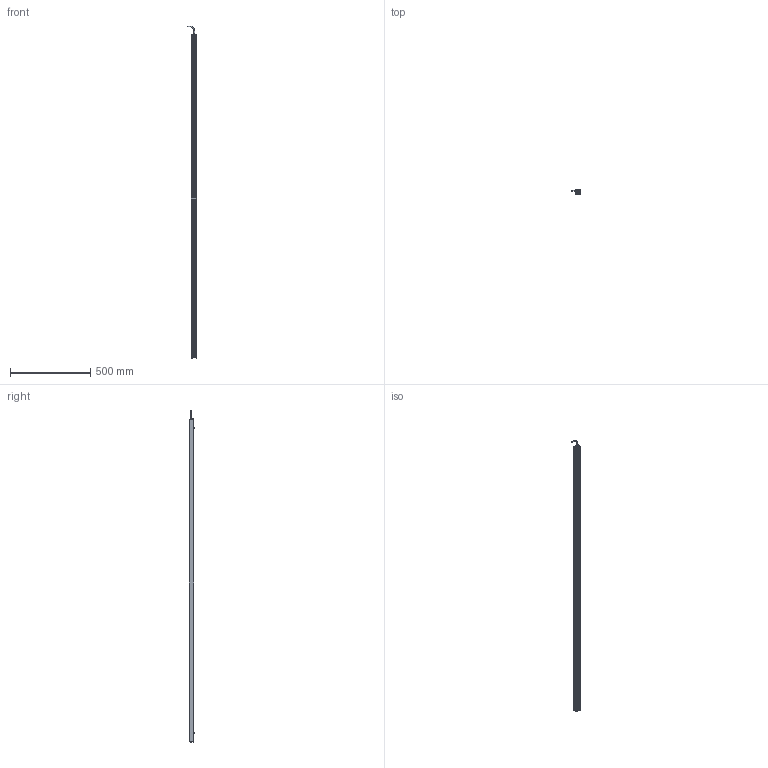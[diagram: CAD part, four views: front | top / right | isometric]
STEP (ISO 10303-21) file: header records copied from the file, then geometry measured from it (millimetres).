
FILE_DESCRIPTION (( 'STEP AP214' ), '1' );
FILE_NAME ('AL150XXXX_AL150462.stp', '2021-04-29T15:42:08', ( '' ), ( '' ), 'SwSTEP 2.0', 'SolidWorks 2018', '' );
FILE_SCHEMA (( 'AUTOMOTIVE_DESIGN' ));
Length unit declared in the file: inch
Products named in the file (12): 150-01-005-XXX_150-01-005-462; Part1^AL150XXXX; 150-03-006-XXXX_150-03-006-462; HN-M6_90592A016; CHM6x8_91460A312; 116-02-006; 116-02-007; 092408_TRUNCATED; AL150XXXX_AL150462; Part2^AL150XXXX; 1157 (no strap); 093145_93701A253
Assembly tree (18 placements, depth 2):
  Part1^AL150XXXX
  AL150XXXX_AL150462
    150-01-005-XXX_150-01-005-462
    116-02-006
    093145_93701A253  x8
    HN-M6_90592A016  x2
    CHM6x8_91460A312  x2
    150-03-006-XXXX_150-03-006-462
    116-02-007
    1157 (no strap)
    092408_TRUNCATED
  Part2^AL150XXXX
Bounding box: 60.68 x 33.84 x 2071.04 mm (x, y, z)
Volume: 622881.7 mm3; surface area: 656872.9 mm2
Topology: 26 solids, 26 shells, 1306 faces, 3436 edges, 2127 vertices
Faces by surface type: cylinder 805, cone 249, plane 153, torus 59, bspline 32, sphere 8
Entity records: 18285 total; most frequent: CARTESIAN_POINT 6069, ORIENTED_EDGE 2496, DIRECTION 2311, EDGE_CURVE 1248, AXIS2_PLACEMENT_3D 881, VERTEX_POINT 800, LINE 549, VECTOR 549
